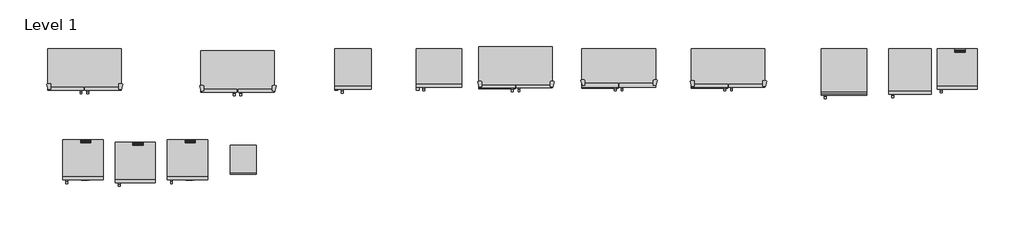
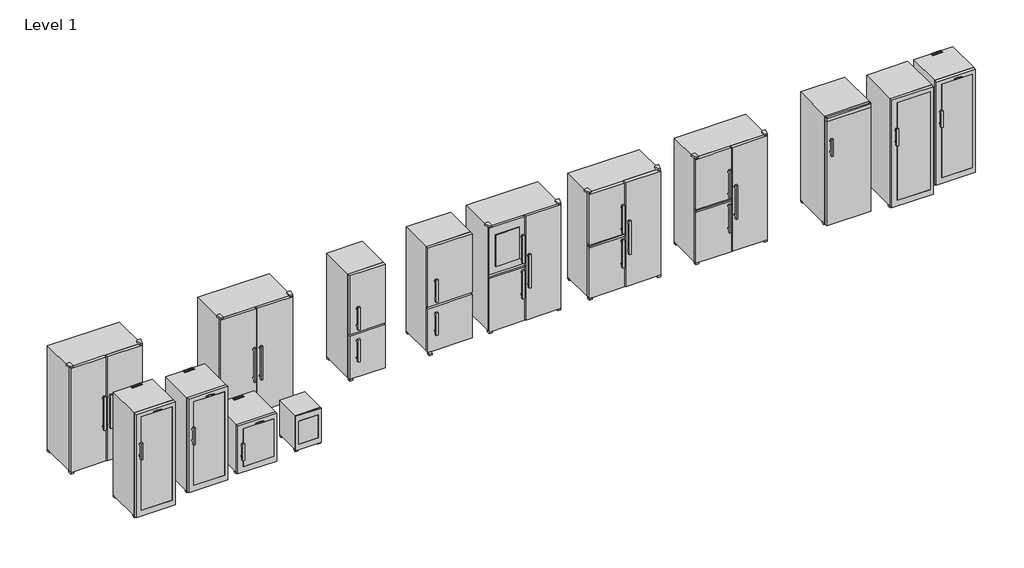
# One storey: 14 proxies.
"""IFC4 building model written with IfcOpenShell, lengths in millimetres."""

from ifc_helpers import new_model, si_unit, origin, place, context, project, spatial, transform, mapped, element, save
from components import specialty_equipment_39511ddc, specialty_equipment_d243509d, specialty_equipment_5408e7d3, specialty_equipment_ab0ed46c, specialty_equipment_bd1fe556, specialty_equipment_3c9227b6, specialty_equipment_b5ad8041, specialty_equipment_a9a47bf1, specialty_equipment_4a262d58, specialty_equipment_dc7cb6ab, specialty_equipment_114975ca, specialty_equipment_0063b3d1, specialty_equipment_297d572d, specialty_equipment_43d568f8

model = new_model("IFC4")

# Units and contexts
model_context = context("Model", 3, world=origin())
ifc_project = project(units=[si_unit("LENGTHUNIT", "METRE", prefix="MILLI")], contexts=[model_context])

# Site, building, storey
site = spatial("IfcSite", under=ifc_project)
building = spatial("IfcBuilding", under=site)
storey = spatial("IfcBuildingStorey", under=building, Name="Level 1", Elevation=0.0)

# Proxies
placement = place(None, origin())
specialty_equipment_shape = specialty_equipment_39511ddc(model_context)
element("IfcBuildingElementProxy", 1, Name="CNef 4315, CNPef 4516 : CNef 4315", ObjectType="CNef 4315, CNPef 4516 : CNef 4315", at=placement, inside=storey, context=model_context, shape_type="MappedRepresentation", body=[
    mapped(specialty_equipment_shape, transform((4682.702638, 664.5560119, 0.0), x_axis=(1.0, 0.0, 0.0), y_axis=(0.0, 1.0, 0.0), z_axis=(0.0, 0.0, 1.0))),
])
specialty_equipment_2_shape = specialty_equipment_d243509d(model_context)
element("IfcBuildingElementProxy", 2, Name="CNef 4315, CNPef 4516 : CNPef 4516", ObjectType="CNef 4315, CNPef 4516 : CNPef 4516", at=placement, inside=storey, context=model_context, shape_type="MappedRepresentation", body=[
    mapped(specialty_equipment_2_shape, transform((6022.702638, 664.5560119, 0.0), x_axis=(1.0, 0.0, 0.0), y_axis=(0.0, 1.0, 0.0), z_axis=(0.0, 0.0, 1.0))),
])
specialty_equipment_3_shape = specialty_equipment_5408e7d3(model_context)
element("IfcBuildingElementProxy", 3, Name="SBSes 7252, SBef 7242 : SBSes 7252", ObjectType="SBSes 7252, SBef 7242 : SBSes 7252", at=placement, inside=storey, context=model_context, shape_type="MappedRepresentation", body=[
    mapped(specialty_equipment_3_shape, transform((-37.297362, 664.5560119, 0.0), x_axis=(1.0, 0.0, 0.0), y_axis=(0.0, 1.0, 0.0), z_axis=(0.0, 0.0, 1.0))),
])
specialty_equipment_4_shape = specialty_equipment_ab0ed46c(model_context)
element("IfcBuildingElementProxy", 4, Name="SBSes 7252, SBef 7242 : SBSef 7242", ObjectType="SBSes 7252, SBef 7242 : SBSef 7242", at=placement, inside=storey, context=model_context, shape_type="MappedRepresentation", body=[
    mapped(specialty_equipment_4_shape, transform((2482.702638, 634.7214813, 0.0), x_axis=(1.0, 0.0, 0.0), y_axis=(0.0, 1.0, 0.0), z_axis=(0.0, 0.0, 1.0))),
])
specialty_equipment_5_shape = specialty_equipment_bd1fe556(model_context)
element("IfcBuildingElementProxy", 5, Name="SBSbs 7353, SBSes 7353 : SBSbs 7353", ObjectType="SBSbs 7353, SBSes 7353 : SBSbs 7353", at=placement, inside=storey, context=model_context, shape_type="MappedRepresentation", body=[
    mapped(specialty_equipment_5_shape, transform((8750.8752505, 664.5560119, 0.0), x_axis=(1.0, 0.0, 0.0), y_axis=(0.0, 1.0, 0.0), z_axis=(0.0, 0.0, 1.0))),
])
specialty_equipment_6_shape = specialty_equipment_3c9227b6(model_context)
element("IfcBuildingElementProxy", 6, Name="SBSbs 7353, SBSes 7353 : SBSes 7353", ObjectType="SBSbs 7353, SBSes 7353 : SBSes 7353", at=placement, inside=storey, context=model_context, shape_type="MappedRepresentation", body=[
    mapped(specialty_equipment_6_shape, transform((10550.8752505, 664.5560119, 0.0), x_axis=(1.0, 0.0, 0.0), y_axis=(0.0, 1.0, 0.0), z_axis=(0.0, 0.0, 1.0))),
])
specialty_equipment_7_shape = specialty_equipment_b5ad8041(model_context)
element("IfcBuildingElementProxy", 7, Name="WKt 6451 : WKt 6451", ObjectType="WKt 6451 : WKt 6451", at=placement, inside=storey, context=model_context, shape_type="MappedRepresentation", body=[
    mapped(specialty_equipment_7_shape, transform((12685.781919, 664.5560119, -182.0), x_axis=(1.0, 0.0, 0.0), y_axis=(0.0, 1.0, 0.0), z_axis=(0.0, 0.0, 1.0))),
])
specialty_equipment_8_shape = specialty_equipment_a9a47bf1(model_context)
element("IfcBuildingElementProxy", 8, Name="WKb : WKb 4611", ObjectType="WKb : WKb 4611", at=placement, inside=storey, context=model_context, shape_type="MappedRepresentation", body=[
    mapped(specialty_equipment_8_shape, transform((215.7088759, -825.5850126, -261.0), x_axis=(1.0, 0.0, 0.0), y_axis=(0.0, 1.0, 0.0), z_axis=(0.0, 0.0, 1.0))),
])
specialty_equipment_9_shape = specialty_equipment_4a262d58(model_context)
element("IfcBuildingElementProxy", 9, Name="ZKes 453_136 : ZKes 453", ObjectType="ZKes 453_136 : ZKes 453", at=placement, inside=storey, context=model_context, shape_type="MappedRepresentation", body=[
    mapped(specialty_equipment_9_shape, transform((2969.5109483, -920.369614, -1313.0), x_axis=(1.0, 0.0, 0.0), y_axis=(0.0, 1.0, 0.0), z_axis=(0.0, 0.0, 1.0))),
])
specialty_equipment_10_shape = specialty_equipment_dc7cb6ab(model_context)
element("IfcBuildingElementProxy", 10, Name="Wkb 1712_049 : WKb 1712", ObjectType="Wkb 1712_049 : WKb 1712", at=placement, inside=storey, context=model_context, shape_type="MappedRepresentation", body=[
    mapped(specialty_equipment_10_shape, transform((1935.7088759, -825.5850126, -1075.0), x_axis=(1.0, 0.0, 0.0), y_axis=(0.0, 1.0, 0.0), z_axis=(0.0, 0.0, 1.0))),
])
specialty_equipment_11_shape = specialty_equipment_114975ca(model_context)
element("IfcBuildingElementProxy", 11, Name="Wkb 4112_049 : WKb 4112", ObjectType="Wkb 4112_049 : WKb 4112", at=placement, inside=storey, context=model_context, shape_type="MappedRepresentation", body=[
    mapped(specialty_equipment_11_shape, transform((1075.7088759, -865.5850126, -261.0), x_axis=(1.0, 0.0, 0.0), y_axis=(0.0, 1.0, 0.0), z_axis=(0.0, 0.0, 1.0))),
])
specialty_equipment_12_shape = specialty_equipment_0063b3d1(model_context)
element("IfcBuildingElementProxy", 12, Name="Wkb 4612_049 : WKb 4612", ObjectType="Wkb 4612_049 : WKb 4612", at=placement, inside=storey, context=model_context, shape_type="MappedRepresentation", body=[
    mapped(specialty_equipment_12_shape, transform((14594.9217569, 664.5560119, -261.0), x_axis=(1.0, 0.0, 0.0), y_axis=(0.0, 1.0, 0.0), z_axis=(0.0, 0.0, 1.0))),
])
specialty_equipment_13_shape = specialty_equipment_297d572d(model_context)
element("IfcBuildingElementProxy", 13, Name="WTes 5872_136 : WTes 5872", ObjectType="WTes 5872_136 : WTes 5872", at=placement, inside=storey, context=model_context, shape_type="MappedRepresentation", body=[
    mapped(specialty_equipment_13_shape, transform((13798.557625, 664.5560119, -261.0), x_axis=(1.0, 0.0, 0.0), y_axis=(0.0, 1.0, 0.0), z_axis=(0.0, 0.0, 1.0))),
])
specialty_equipment_14_shape = specialty_equipment_43d568f8(model_context)
element("IfcBuildingElementProxy", 14, Name="SBSes 7165_049 : SBSes 7165", ObjectType="SBSes 7165_049 : SBSes 7165", at=placement, inside=storey, context=model_context, shape_type="MappedRepresentation", body=[
    mapped(specialty_equipment_14_shape, transform((7055.8752505, 704.5560119, 0.0), x_axis=(1.0, 0.0, 0.0), y_axis=(0.0, 1.0, 0.0), z_axis=(0.0, 0.0, 1.0))),
])

save(model, "model.ifc")
